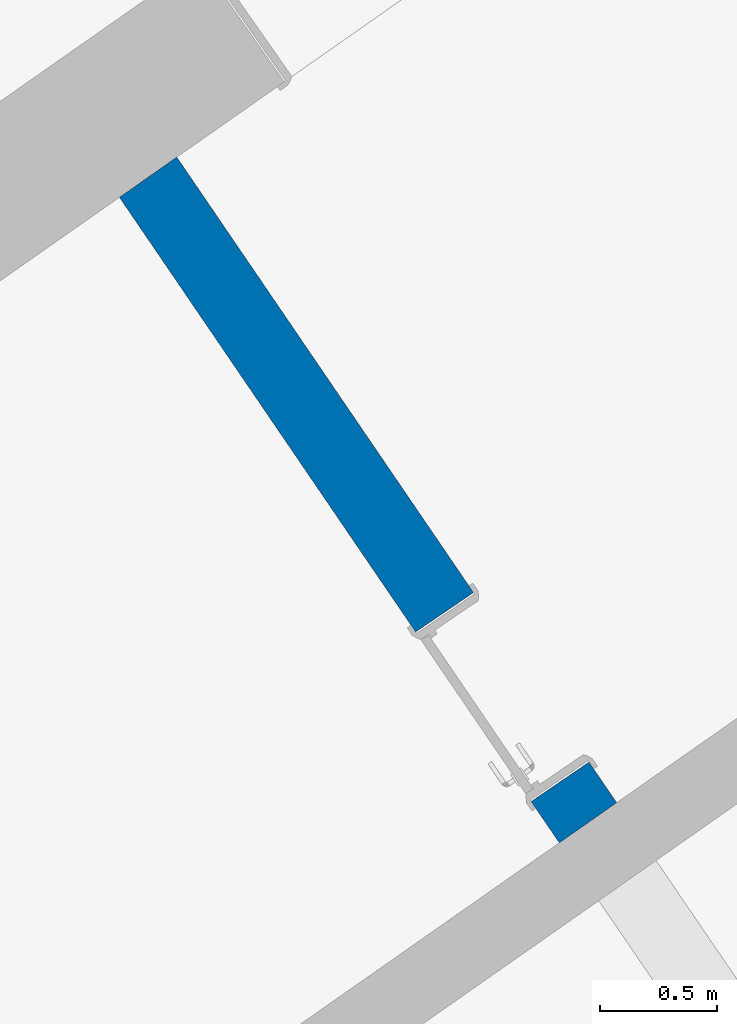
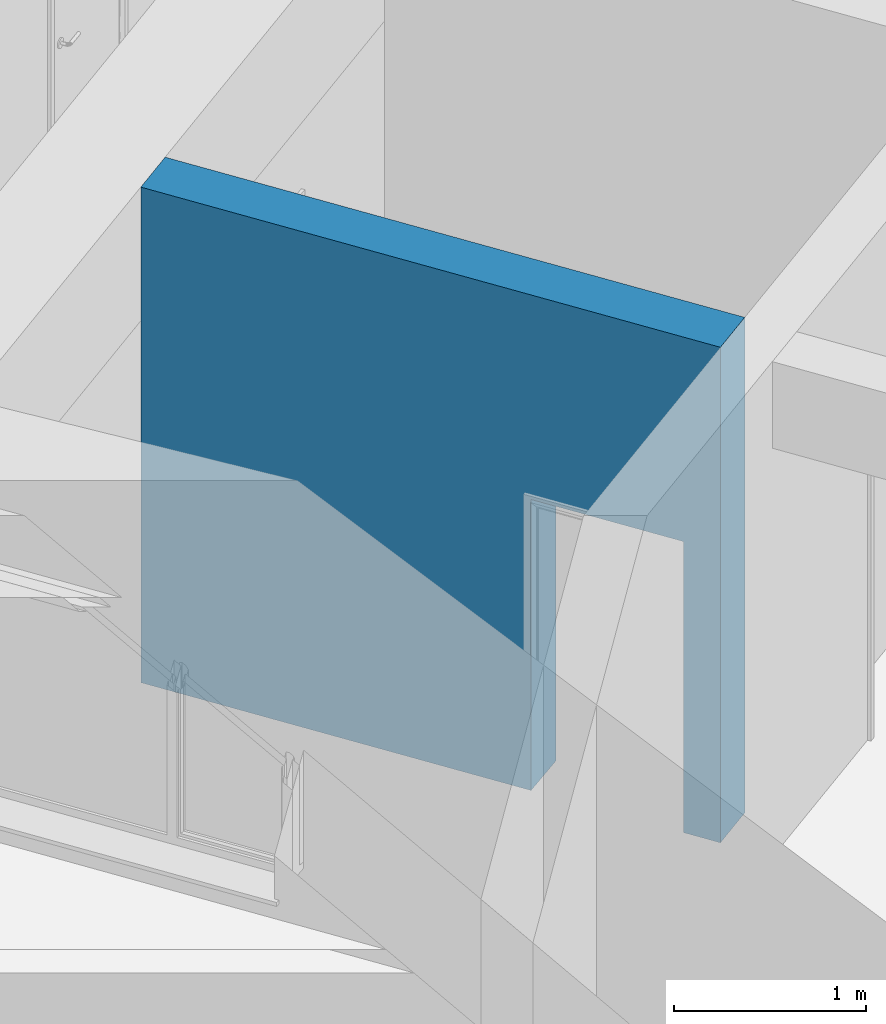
# One storey, part 19 of 112: 1 wall, 1 opening.
"""IFC2X3 building model written with IfcOpenShell, lengths in millimetres."""

from ifc_helpers import new_model, entity, si_unit, converted_unit, derived_unit, direction, frame, frame_2d, origin, place, context, subcontext, project, spatial, polyline, rectangle, outline, extrude, material, layer, layer_set, layer_usage, type_object, element, save


model = new_model("IFC2X3")

# Units and contexts
model_context = context("Model", 3, precision=0.01, world=origin(), true_north=direction((6.123031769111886e-17, 1.0)))
body_context = subcontext(model_context, "Body", "Model", "MODEL_VIEW")
ifc_project = project(units=[si_unit("LENGTHUNIT", "METRE", prefix="MILLI"), si_unit("AREAUNIT", "SQUARE_METRE"), si_unit("VOLUMEUNIT", "CUBIC_METRE"), converted_unit("PLANEANGLEUNIT", "DEGREE", entity("IfcRatioMeasure", 0.017453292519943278), si_unit("PLANEANGLEUNIT", "RADIAN"), dimensions=[0, 0, 0, 0, 0, 0, 0]), si_unit("MASSUNIT", "GRAM", prefix="KILO"), derived_unit("MASSDENSITYUNIT", [(si_unit("MASSUNIT", "GRAM", prefix="KILO"), 1), (si_unit("LENGTHUNIT", "METRE"), -3)]), derived_unit("MOMENTOFINERTIAUNIT", [(si_unit("LENGTHUNIT", "METRE"), 4)]), si_unit("TIMEUNIT", "SECOND"), si_unit("FREQUENCYUNIT", "HERTZ"), si_unit("THERMODYNAMICTEMPERATUREUNIT", "DEGREE_CELSIUS"), derived_unit("THERMALTRANSMITTANCEUNIT", [(si_unit("MASSUNIT", "GRAM", prefix="KILO"), 1), (si_unit("THERMODYNAMICTEMPERATUREUNIT", "KELVIN"), -1), (si_unit("TIMEUNIT", "SECOND"), -3)]), derived_unit("THERMALCONDUCTANCEUNIT", [(si_unit("MASSUNIT", "GRAM", prefix="KILO"), 1), (si_unit("LENGTHUNIT", "METRE"), 1), (si_unit("THERMODYNAMICTEMPERATUREUNIT", "KELVIN"), -1), (si_unit("TIMEUNIT", "SECOND"), -3)]), derived_unit("VOLUMETRICFLOWRATEUNIT", [(si_unit("LENGTHUNIT", "METRE"), 3), (si_unit("TIMEUNIT", "SECOND"), -1)]), derived_unit("MASSFLOWRATEUNIT", [(si_unit("MASSUNIT", "GRAM", prefix="KILO"), 1), (si_unit("TIMEUNIT", "SECOND"), -1)]), derived_unit("ROTATIONALFREQUENCYUNIT", [(si_unit("TIMEUNIT", "SECOND"), -1)]), si_unit("ELECTRICCURRENTUNIT", "AMPERE"), si_unit("ELECTRICVOLTAGEUNIT", "VOLT"), si_unit("POWERUNIT", "WATT"), converted_unit("FORCEUNIT", "KIP", entity("IfcRatioMeasure", 2.088543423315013e-05), si_unit("FORCEUNIT", "NEWTON"), dimensions=[1, 1, -2, 0, 0, 0, 0]), si_unit("ILLUMINANCEUNIT", "LUX"), si_unit("LUMINOUSFLUXUNIT", "LUMEN"), si_unit("LUMINOUSINTENSITYUNIT", "CANDELA"), derived_unit("USERDEFINED", [(si_unit("MASSUNIT", "GRAM", prefix="KILO"), -1), (si_unit("LENGTHUNIT", "METRE"), -2), (si_unit("TIMEUNIT", "SECOND"), 3), (si_unit("LUMINOUSFLUXUNIT", "LUMEN"), 1)]), derived_unit("USERDEFINED", [(si_unit("MASSUNIT", "GRAM", prefix="KILO"), 1), (si_unit("LENGTHUNIT", "METRE"), 3), (si_unit("TIMEUNIT", "SECOND"), -3), (si_unit("ELECTRICCURRENTUNIT", "AMPERE"), -2)]), derived_unit("USERDEFINED", [(si_unit("LENGTHUNIT", "METRE"), 2), (si_unit("TIMEUNIT", "SECOND"), -2)]), derived_unit("SOUNDPOWERUNIT", [(si_unit("MASSUNIT", "GRAM", prefix="KILO"), 1), (si_unit("LENGTHUNIT", "METRE"), 2), (si_unit("TIMEUNIT", "SECOND"), -3)]), derived_unit("SOUNDPRESSUREUNIT", [(si_unit("MASSUNIT", "GRAM", prefix="KILO"), 1), (si_unit("LENGTHUNIT", "METRE"), -1), (si_unit("TIMEUNIT", "SECOND"), -2)]), derived_unit("LINEARVELOCITYUNIT", [(si_unit("LENGTHUNIT", "METRE"), 1), (si_unit("TIMEUNIT", "SECOND"), -1)]), si_unit("PRESSUREUNIT", "PASCAL"), derived_unit("USERDEFINED", [(si_unit("LENGTHUNIT", "METRE"), -2), (si_unit("MASSUNIT", "GRAM", prefix="KILO"), 1), (si_unit("TIMEUNIT", "SECOND"), -2)]), derived_unit("LINEARFORCEUNIT", [(si_unit("MASSUNIT", "GRAM", prefix="KILO"), 1), (si_unit("LENGTHUNIT", "METRE"), 1), (si_unit("TIMEUNIT", "SECOND"), -2), (si_unit("LENGTHUNIT", "METRE"), -1)]), derived_unit("PLANARFORCEUNIT", [(si_unit("MASSUNIT", "GRAM", prefix="KILO"), 1), (si_unit("LENGTHUNIT", "METRE"), 1), (si_unit("TIMEUNIT", "SECOND"), -2), (si_unit("LENGTHUNIT", "METRE"), -2)]), derived_unit("SPECIFICHEATCAPACITYUNIT", [(si_unit("LENGTHUNIT", "METRE"), 2), (si_unit("TIMEUNIT", "SECOND"), -2), (si_unit("THERMODYNAMICTEMPERATUREUNIT", "KELVIN"), -1)]), derived_unit("VAPORPERMEABILITYUNIT", [(si_unit("TIMEUNIT", "SECOND"), 1), (si_unit("LENGTHUNIT", "METRE"), -1)]), derived_unit("DYNAMICVISCOSITYUNIT", [(si_unit("MASSUNIT", "GRAM", prefix="KILO"), 1), (si_unit("LENGTHUNIT", "METRE"), -1), (si_unit("TIMEUNIT", "SECOND"), -1)]), derived_unit("THERMALEXPANSIONCOEFFICIENTUNIT", [(si_unit("THERMODYNAMICTEMPERATUREUNIT", "KELVIN"), -1)])], contexts=[model_context])

# Site, building, storey
site_placement = place(None, frame((0.0, 0.0, 0.0), z_axis=(0.0, 0.0, 1.0), x_axis=(0.8191520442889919, 0.5735764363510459, 0.0)))
site = spatial("IfcSite", under=ifc_project, at=site_placement, Name="Default", CompositionType="ELEMENT")
building_placement = place(site_placement, origin())
building = spatial("IfcBuilding", under=site, at=building_placement, CompositionType="ELEMENT")
storey_placement = place(building_placement, frame((0.0, 0.0, -3600.0)))
storey = spatial("IfcBuildingStorey", under=building, at=storey_placement, Name="0.UG -3.60", CompositionType="ELEMENT", Elevation=-3600.0000000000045)

# Wall, opening
ifc_material = material(Name="Analytical Wall Surface_CJC")
ifc_layer = layer(ifc_material, 300.0)
ifc_layer_set = layer_set([ifc_layer], Name="Basic Wall:Wand_Innen_30")
ifc_layer_usage = layer_usage(ifc_layer_set, "AXIS2", "NEGATIVE", 150.0)
wall_type = type_object("IfcWallType", Name="Basic Wall:Wand_Innen_30", PredefinedType="STANDARD", material=ifc_layer_set)
wall_placement = place(storey_placement, frame((-219849.4828173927, 99869.44947620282, 300.0), z_axis=(0.0, 0.0, 1.0), x_axis=(0.012729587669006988, 0.9999189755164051, 0.0)))
wall = element("IfcWallStandardCase", 1, at=wall_placement, inside=storey, type_object=wall_type, material=ifc_layer_usage, Name="Basic Wall:Wand_Innen_30", ObjectType="Basic Wall:Wand_Innen_30", context=body_context, shape_type="SweptSolid", body=[
    extrude(outline(polyline([(3.819185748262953, -150.0), (3354.0906397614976, -150.0), (3350.271454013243, 150.0), (0.0, 150.0), (3.819185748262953, -150.0)])), origin(), (0.0, 0.0, 1.0), 3150.0),
])
opening_placement = place(wall_placement, frame((214.4846899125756, -150.0, -300.0)))
element("IfcOpeningElement", 2, at=opening_placement, cuts=wall, Name="Doors_IntSgl:80x210:1", ObjectType="Opening", context=body_context, shape_type="SweptSolid", body=[
    extrude(rectangle(XDim=2150.000000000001, YDim=879.9999999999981, at=frame_2d((1075.0000000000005, 439.99999999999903), x_axis=(1.0, 0.0))), frame((0.0, 0.0, 0.0), z_axis=(0.0, 1.0, 0.0), x_axis=(0.0, 0.0, 1.0)), (0.0, 0.0, 1.0), 300.0),
])

save(model, "model.ifc")
